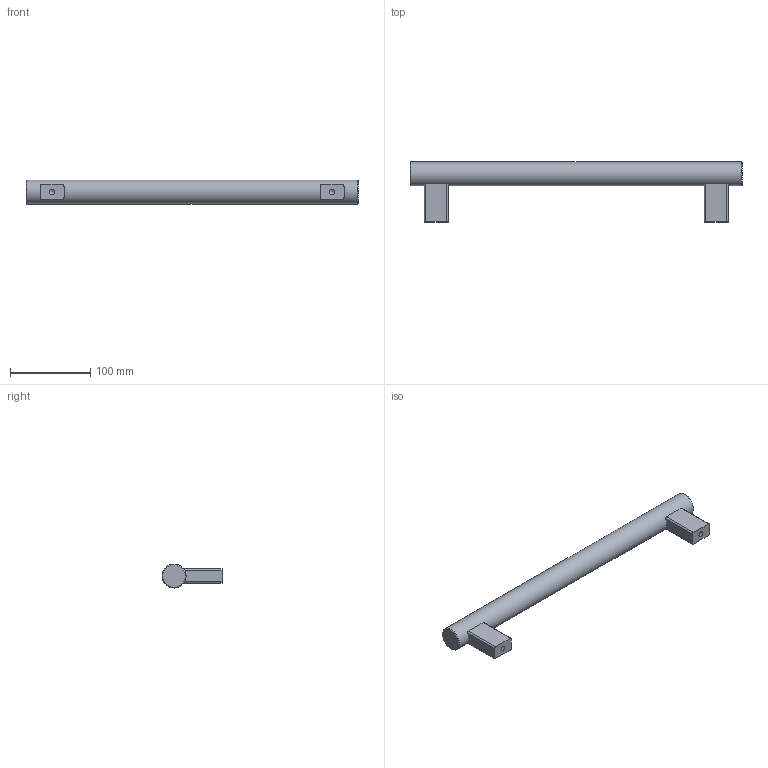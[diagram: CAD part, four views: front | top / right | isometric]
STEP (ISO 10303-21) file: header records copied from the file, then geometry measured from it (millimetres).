
FILE_DESCRIPTION( ( 'STEP AP203' ), '1' );
FILE_NAME( 'C:/Temp/Ganter_Step_05_03_2020/data/1_2/gn_666/Tubular handle GN 666-30-M8-350-WS.stp', '2020-03-05T10:18:20', ( 'License CC BY-ND 4.0' ), ( 'CADENAS' ), ' ', 'PARTsolutions', ' ' );
FILE_SCHEMA( ( 'CONFIG_CONTROL_DESIGN' ) );
Length unit declared in the file: millimetre
Products named in the file (1): _Tubular handle GN 666-30-M8-350-WS
Bounding box: 415 x 75 x 30 mm (x, y, z)
Volume: 341265.7 mm3; surface area: 49836.8 mm2
Topology: 1 solids, 1 shells, 27 faces, 65 edges, 42 vertices
Faces by surface type: plane 12, cylinder 11, cone 4
Full cylindrical faces by diameter (mm): 6.647 x2, 30 x1
Entity records: 882 total; most frequent: CARTESIAN_POINT 238, DIRECTION 124, ORIENTED_EDGE 112, EDGE_CURVE 56, AXIS2_PLACEMENT_3D 48, VERTEX_POINT 42, EDGE_LOOP 36, FACE_OUTER_BOUND 30
